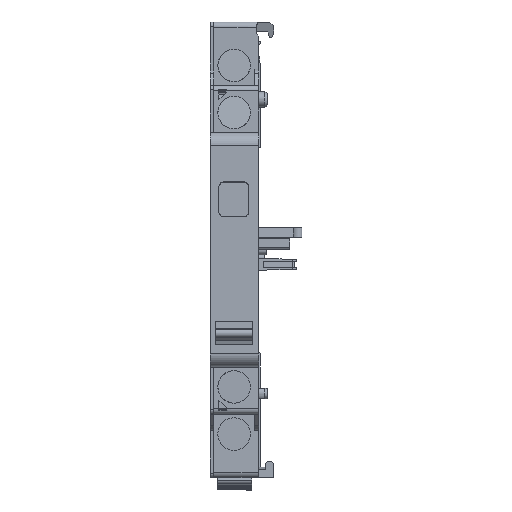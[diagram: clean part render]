
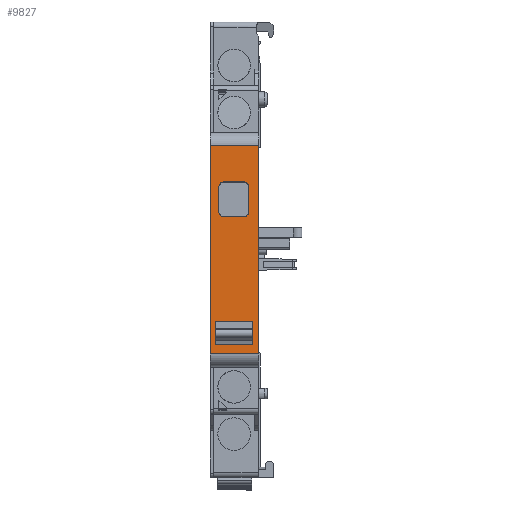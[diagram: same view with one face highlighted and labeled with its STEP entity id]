
A CAD part, left-side view. The second image highlights one B-rep face of the part: STEP entity #9827.
In plain terms, the highlighted planar face has unit normal (-1, 0, 0).
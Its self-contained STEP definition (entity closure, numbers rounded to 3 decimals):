
#2239=DIRECTION('',(0.,0.,1.));
#2240=VECTOR('',#2239,39.8);
#2241=CARTESIAN_POINT('',(0.,-0.1,-19.9));
#2242=LINE('',#2241,#2240);
#2247=DIRECTION('',(0.,1.,0.));
#2248=VECTOR('',#2247,9.3);
#2249=CARTESIAN_POINT('',(0.,-0.1,19.9));
#2250=LINE('',#2249,#2248);
#2442=DIRECTION('',(0.,0.,-1.));
#2443=VECTOR('',#2442,39.8);
#2444=CARTESIAN_POINT('',(0.,9.2,19.9));
#2445=LINE('',#2444,#2443);
#3485=DIRECTION('',(0.,-1.,0.));
#3486=VECTOR('',#3485,9.3);
#3487=CARTESIAN_POINT('',(0.,9.2,-19.9));
#3488=LINE('',#3487,#3486);
#3493=DIRECTION('',(0.,0.,-1.));
#3494=VECTOR('',#3493,4.7);
#3495=CARTESIAN_POINT('',(0.,7.5,12.));
#3496=LINE('',#3495,#3494);
#3497=CARTESIAN_POINT('',(0.,6.5,7.3));
#3498=DIRECTION('',(-1.,0.,0.));
#3499=DIRECTION('',(0.,1.,0.));
#3500=AXIS2_PLACEMENT_3D('',#3497,#3498,#3499);
#3502=DIRECTION('',(0.,-1.,0.));
#3503=VECTOR('',#3502,3.7);
#3504=CARTESIAN_POINT('',(0.,6.5,6.3));
#3505=LINE('',#3504,#3503);
#3506=CARTESIAN_POINT('',(0.,2.8,7.3));
#3507=DIRECTION('',(-1.,0.,0.));
#3508=DIRECTION('',(0.,0.,-1.));
#3509=AXIS2_PLACEMENT_3D('',#3506,#3507,#3508);
#3511=DIRECTION('',(0.,0.,1.));
#3512=VECTOR('',#3511,4.7);
#3513=CARTESIAN_POINT('',(0.,1.8,7.3));
#3514=LINE('',#3513,#3512);
#3515=CARTESIAN_POINT('',(0.,2.8,12.));
#3516=DIRECTION('',(-1.,0.,0.));
#3517=DIRECTION('',(0.,-1.,0.));
#3518=AXIS2_PLACEMENT_3D('',#3515,#3516,#3517);
#3520=DIRECTION('',(0.,1.,0.));
#3521=VECTOR('',#3520,3.7);
#3522=CARTESIAN_POINT('',(0.,2.8,13.));
#3523=LINE('',#3522,#3521);
#3524=CARTESIAN_POINT('',(0.,6.5,12.));
#3525=DIRECTION('',(-1.,0.,0.));
#3526=DIRECTION('',(0.,0.,1.));
#3527=AXIS2_PLACEMENT_3D('',#3524,#3525,#3526);
#3529=DIRECTION('',(0.,-1.,0.));
#3530=VECTOR('',#3529,7.2);
#3531=CARTESIAN_POINT('',(0.,8.2,-18.1));
#3532=LINE('',#3531,#3530);
#3533=DIRECTION('',(0.,0.,1.));
#3534=VECTOR('',#3533,2.15);
#3535=CARTESIAN_POINT('',(0.,1.,-18.1));
#3536=LINE('',#3535,#3534);
#3537=DIRECTION('',(0.,0.,1.));
#3538=VECTOR('',#3537,2.25);
#3539=CARTESIAN_POINT('',(0.,1.,-15.95));
#3540=LINE('',#3539,#3538);
#3549=DIRECTION('',(0.,-1.,0.));
#3550=VECTOR('',#3549,7.2);
#3551=CARTESIAN_POINT('',(0.,8.2,-13.7));
#3552=LINE('',#3551,#3550);
#4220=DIRECTION('',(0.,0.,1.));
#4221=VECTOR('',#4220,2.25);
#4222=CARTESIAN_POINT('',(0.,8.2,-15.95));
#4223=LINE('',#4222,#4221);
#4228=DIRECTION('',(0.,0.,1.));
#4229=VECTOR('',#4228,2.15);
#4230=CARTESIAN_POINT('',(0.,8.2,-18.1));
#4231=LINE('',#4230,#4229);
#5218=CARTESIAN_POINT('',(0.,1.,-15.95));
#5219=CARTESIAN_POINT('',(0.,1.,-13.7));
#5220=VERTEX_POINT('',#5218);
#5221=VERTEX_POINT('',#5219);
#5228=CARTESIAN_POINT('',(0.,1.,-18.1));
#5229=VERTEX_POINT('',#5228);
#5471=CARTESIAN_POINT('',(0.,-0.1,19.9));
#5473=VERTEX_POINT('',#5471);
#5555=CARTESIAN_POINT('',(0.,-0.1,-19.9));
#5556=VERTEX_POINT('',#5555);
#5559=CARTESIAN_POINT('',(0.,9.2,19.9));
#5560=VERTEX_POINT('',#5559);
#5575=CARTESIAN_POINT('',(0.,9.2,-19.9));
#5576=VERTEX_POINT('',#5575);
#5765=CARTESIAN_POINT('',(0.,7.5,7.3));
#5766=CARTESIAN_POINT('',(0.,7.5,12.));
#5767=VERTEX_POINT('',#5765);
#5768=VERTEX_POINT('',#5766);
#5769=CARTESIAN_POINT('',(0.,6.5,6.3));
#5770=VERTEX_POINT('',#5769);
#5771=CARTESIAN_POINT('',(0.,2.8,6.3));
#5772=VERTEX_POINT('',#5771);
#5773=CARTESIAN_POINT('',(0.,1.8,7.3));
#5774=VERTEX_POINT('',#5773);
#5775=CARTESIAN_POINT('',(0.,1.8,12.));
#5776=VERTEX_POINT('',#5775);
#5777=CARTESIAN_POINT('',(0.,2.8,13.));
#5778=VERTEX_POINT('',#5777);
#5779=CARTESIAN_POINT('',(0.,6.5,13.));
#5780=VERTEX_POINT('',#5779);
#5781=CARTESIAN_POINT('',(0.,8.2,-13.7));
#5782=VERTEX_POINT('',#5781);
#5783=CARTESIAN_POINT('',(0.,8.2,-15.95));
#5784=VERTEX_POINT('',#5783);
#5785=CARTESIAN_POINT('',(0.,8.2,-18.1));
#5786=VERTEX_POINT('',#5785);
#9786=CARTESIAN_POINT('',(0.,0.,-22.4));
#9787=DIRECTION('',(-1.,0.,0.));
#9788=DIRECTION('',(0.,0.,1.));
#9789=AXIS2_PLACEMENT_3D('',#9786,#9787,#9788);
#9790=PLANE('',#9789);
#9791=ORIENTED_EDGE('',*,*,#8537,.F.);
#9792=ORIENTED_EDGE('',*,*,#8524,.F.);
#9793=ORIENTED_EDGE('',*,*,#9778,.F.);
#9794=ORIENTED_EDGE('',*,*,#8631,.F.);
#9795=EDGE_LOOP('',(#9791,#9792,#9793,#9794));
#9796=FACE_OUTER_BOUND('',#9795,.F.);
#9798=ORIENTED_EDGE('',*,*,#9797,.T.);
#9800=ORIENTED_EDGE('',*,*,#9799,.T.);
#9802=ORIENTED_EDGE('',*,*,#9801,.T.);
#9804=ORIENTED_EDGE('',*,*,#9803,.T.);
#9806=ORIENTED_EDGE('',*,*,#9805,.T.);
#9808=ORIENTED_EDGE('',*,*,#9807,.T.);
#9810=ORIENTED_EDGE('',*,*,#9809,.T.);
#9812=ORIENTED_EDGE('',*,*,#9811,.T.);
#9813=EDGE_LOOP('',(#9798,#9800,#9802,#9804,#9806,#9808,#9810,#9812));
#9814=FACE_BOUND('',#9813,.F.);
#9816=ORIENTED_EDGE('',*,*,#9815,.F.);
#9818=ORIENTED_EDGE('',*,*,#9817,.F.);
#9820=ORIENTED_EDGE('',*,*,#9819,.F.);
#9822=ORIENTED_EDGE('',*,*,#9821,.T.);
#9823=ORIENTED_EDGE('',*,*,#7016,.T.);
#9824=ORIENTED_EDGE('',*,*,#7046,.T.);
#9825=EDGE_LOOP('',(#9816,#9818,#9820,#9822,#9823,#9824));
#9826=FACE_BOUND('',#9825,.F.);
#9827=ADVANCED_FACE('',(#9796,#9814,#9826),#9790,.T.);
#3501=CIRCLE('',#3500,1.);
#3510=CIRCLE('',#3509,1.);
#3519=CIRCLE('',#3518,1.);
#3528=CIRCLE('',#3527,1.);
#7016=EDGE_CURVE('',#5229,#5220,#3536,.T.);
#7046=EDGE_CURVE('',#5220,#5221,#3540,.T.);
#8524=EDGE_CURVE('',#5556,#5473,#2242,.T.);
#8537=EDGE_CURVE('',#5473,#5560,#2250,.T.);
#8631=EDGE_CURVE('',#5560,#5576,#2445,.T.);
#9778=EDGE_CURVE('',#5576,#5556,#3488,.T.);
#9797=EDGE_CURVE('',#5768,#5767,#3496,.T.);
#9799=EDGE_CURVE('',#5767,#5770,#3501,.T.);
#9801=EDGE_CURVE('',#5770,#5772,#3505,.T.);
#9803=EDGE_CURVE('',#5772,#5774,#3510,.T.);
#9805=EDGE_CURVE('',#5774,#5776,#3514,.T.);
#9807=EDGE_CURVE('',#5776,#5778,#3519,.T.);
#9809=EDGE_CURVE('',#5778,#5780,#3523,.T.);
#9811=EDGE_CURVE('',#5780,#5768,#3528,.T.);
#9815=EDGE_CURVE('',#5782,#5221,#3552,.T.);
#9817=EDGE_CURVE('',#5784,#5782,#4223,.T.);
#9819=EDGE_CURVE('',#5786,#5784,#4231,.T.);
#9821=EDGE_CURVE('',#5786,#5229,#3532,.T.);
